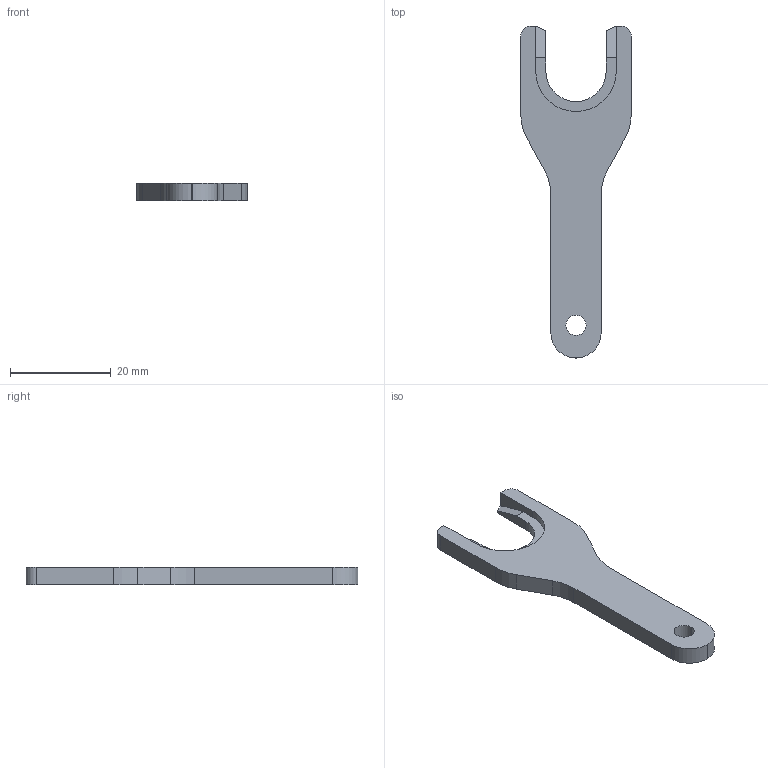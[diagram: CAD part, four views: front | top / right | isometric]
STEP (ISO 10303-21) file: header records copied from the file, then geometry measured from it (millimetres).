
FILE_DESCRIPTION (( 'STEP AP203' ), '1' );
FILE_NAME ('cle fut.STEP', '2016-02-08T13:07:44', ( '' ), ( '' ), 'SwSTEP 2.0', 'SolidWorks 2009', '' );
FILE_SCHEMA (( 'CONFIG_CONTROL_DESIGN' ));
Length unit declared in the file: millimetre
Products named in the file (1): cle fut
Bounding box: 22 x 66 x 3.5 mm (x, y, z)
Volume: 2575.3 mm3; surface area: 2239.7 mm2
Topology: 1 solids, 1 shells, 36 faces, 100 edges, 66 vertices
Faces by surface type: plane 22, cylinder 14
Entity records: 1237 total; most frequent: CARTESIAN_POINT 203, DIRECTION 202, ORIENTED_EDGE 200, EDGE_CURVE 100, VECTOR 72, LINE 72, VERTEX_POINT 66, AXIS2_PLACEMENT_3D 65
